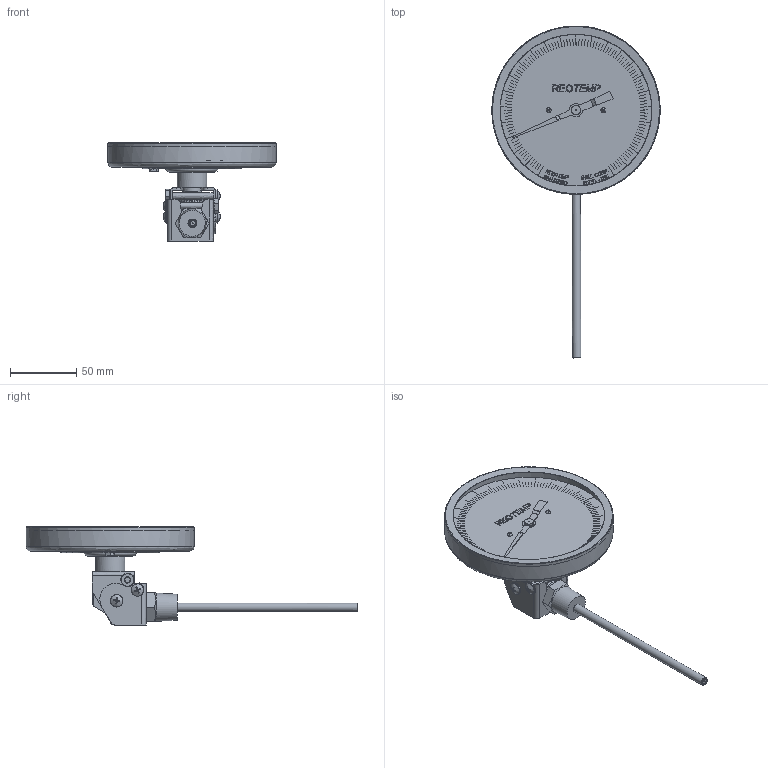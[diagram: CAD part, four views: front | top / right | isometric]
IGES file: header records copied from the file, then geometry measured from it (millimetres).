
Global section: file name: JJ-half-NPT-IGS; native system: Autodesk Inventor 2014; preprocessor: unknown; author: Charles; date: 20151109.151733; units: inch
Bounding box: 127 x 250.45 x 73.98 mm (x, y, z)
Volume: 117715.6 mm3; surface area: 85791.1 mm2
Topology: 16 solids, 34 shells, 1721 faces, 4505 edges, 2988 vertices
Faces by surface type: bspline 1721
